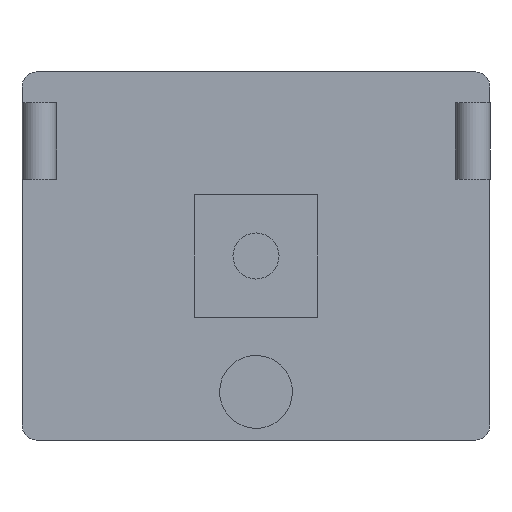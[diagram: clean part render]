
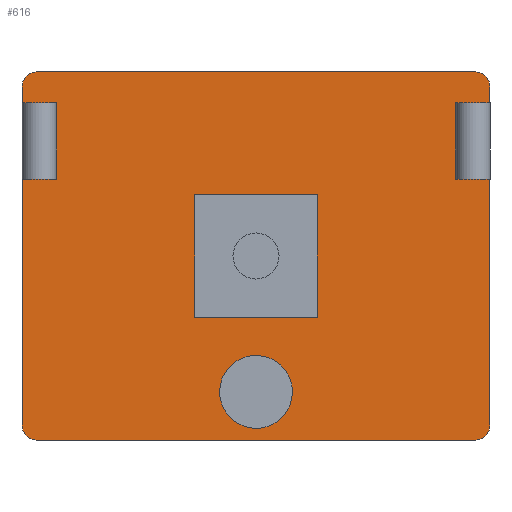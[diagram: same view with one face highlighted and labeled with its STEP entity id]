
A CAD part, front view. The second image highlights one B-rep face of the part: STEP entity #616.
In plain terms, the highlighted planar face has unit normal (0, -1, 0) as drawn and (0, 0, -1) by its records, which use the part's own axes.
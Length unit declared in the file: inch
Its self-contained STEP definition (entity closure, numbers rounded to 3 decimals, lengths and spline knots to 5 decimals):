
#190=CARTESIAN_POINT('',(0.687,-0.688,0.0));
#191=VERTEX_POINT('',#190);
#192=CARTESIAN_POINT('',(0.6875,-0.688,0.0));
#193=DIRECTION('',(0.0,0.0,1.0));
#194=DIRECTION('',(1.0,0.0,0.0));
#195=AXIS2_PLACEMENT_3D('',#192,#193,#194);
#196=CIRCLE('',#195,0.0005);
#197=EDGE_CURVE('',#191,#191,#196,.T.);
#239=CARTESIAN_POINT('',(-0.688,0.687,0.0));
#240=VERTEX_POINT('',#239);
#241=CARTESIAN_POINT('',(-0.6875,0.687,0.0));
#242=DIRECTION('',(0.0,0.0,1.0));
#243=DIRECTION('',(1.0,0.0,0.0));
#244=AXIS2_PLACEMENT_3D('',#241,#242,#243);
#245=CIRCLE('',#244,0.0005);
#246=EDGE_CURVE('',#240,#240,#245,.T.);
#299=CARTESIAN_POINT('',(0.0005,2.214,0.0));
#300=VERTEX_POINT('',#299);
#301=CARTESIAN_POINT('',(0.,2.214,0.0));
#302=DIRECTION('',(0.0,0.0,1.0));
#303=DIRECTION('',(1.0,0.0,0.0));
#304=AXIS2_PLACEMENT_3D('',#301,#302,#303);
#305=CIRCLE('',#304,0.0005);
#306=EDGE_CURVE('',#300,#300,#305,.T.);
#327=CARTESIAN_POINT('',(-3.8125,-2.75,0.0));
#328=VERTEX_POINT('',#327);
#335=CARTESIAN_POINT('',(-3.5625,-3.,0.0));
#336=VERTEX_POINT('',#335);
#337=CARTESIAN_POINT('',(-3.5625,-2.75,0.0));
#338=DIRECTION('',(0.0,0.0,1.0));
#339=DIRECTION('',(-0.707,-0.707,0.0));
#340=AXIS2_PLACEMENT_3D('',#337,#338,#339);
#341=CIRCLE('',#340,0.25);
#342=EDGE_CURVE('',#328,#336,#341,.T.);
#434=CARTESIAN_POINT('',(3.5625,-3.0,0.0));
#435=VERTEX_POINT('',#434);
#436=CARTESIAN_POINT('',(3.5625,-3.0,0.0));
#437=DIRECTION('',(-1.0,0.0,0.0));
#438=VECTOR('',#437,7.125);
#439=LINE('',#436,#438);
#440=EDGE_CURVE('',#435,#336,#439,.T.);
#459=CARTESIAN_POINT('',(3.8125,-2.75,0.0));
#460=VERTEX_POINT('',#459);
#461=CARTESIAN_POINT('',(3.5625,-2.75,0.0));
#462=DIRECTION('',(0.0,0.0,1.0));
#463=DIRECTION('',(0.707,-0.707,0.0));
#464=AXIS2_PLACEMENT_3D('',#461,#462,#463);
#465=CIRCLE('',#464,0.25);
#466=EDGE_CURVE('',#435,#460,#465,.T.);
#483=CARTESIAN_POINT('',(-3.5625,3.,0.0));
#484=VERTEX_POINT('',#483);
#491=CARTESIAN_POINT('',(-3.8125,2.75,0.0));
#492=VERTEX_POINT('',#491);
#493=CARTESIAN_POINT('',(-3.5625,2.75,0.0));
#494=DIRECTION('',(0.0,0.0,1.0));
#495=DIRECTION('',(-0.707,0.707,0.0));
#496=AXIS2_PLACEMENT_3D('',#493,#494,#495);
#497=CIRCLE('',#496,0.25);
#498=EDGE_CURVE('',#484,#492,#497,.T.);
#516=CARTESIAN_POINT('',(3.5625,3.,0.0));
#517=VERTEX_POINT('',#516);
#524=CARTESIAN_POINT('',(-3.5625,3.,0.0));
#525=DIRECTION('',(1.0,0.0,0.0));
#526=VECTOR('',#525,7.125);
#527=LINE('',#524,#526);
#528=EDGE_CURVE('',#484,#517,#527,.T.);
#539=CARTESIAN_POINT('',(3.8125,2.75,0.0));
#540=VERTEX_POINT('',#539);
#547=CARTESIAN_POINT('',(3.5625,2.75,0.0));
#548=DIRECTION('',(0.0,0.0,1.0));
#549=DIRECTION('',(0.707,0.707,0.0));
#550=AXIS2_PLACEMENT_3D('',#547,#548,#549);
#551=CIRCLE('',#550,0.25);
#552=EDGE_CURVE('',#540,#517,#551,.T.);
#564=CARTESIAN_POINT('',(3.8125,2.75,0.0));
#565=DIRECTION('',(0.0,-1.0,0.0));
#566=VECTOR('',#565,5.5);
#567=LINE('',#564,#566);
#568=EDGE_CURVE('',#540,#460,#567,.T.);
#583=CARTESIAN_POINT('',(-3.8125,-2.75,0.0));
#584=DIRECTION('',(0.0,1.0,0.0));
#585=VECTOR('',#584,5.5);
#586=LINE('',#583,#585);
#587=EDGE_CURVE('',#328,#492,#586,.T.);
#592=CARTESIAN_POINT('',(0.,0.,0.0));
#593=DIRECTION('',(0.0,0.0,1.0));
#594=DIRECTION('',(1.0,0.0,0.0));
#595=AXIS2_PLACEMENT_3D('',#592,#593,#594);
#596=PLANE('',#595);
#597=ORIENTED_EDGE('',*,*,#342,.F.);
#598=ORIENTED_EDGE('',*,*,#587,.T.);
#599=ORIENTED_EDGE('',*,*,#498,.F.);
#600=ORIENTED_EDGE('',*,*,#528,.T.);
#601=ORIENTED_EDGE('',*,*,#552,.F.);
#602=ORIENTED_EDGE('',*,*,#568,.T.);
#603=ORIENTED_EDGE('',*,*,#466,.F.);
#604=ORIENTED_EDGE('',*,*,#440,.T.);
#605=EDGE_LOOP('',(#597,#598,#599,#600,#601,#602,#603,#604));
#606=FACE_OUTER_BOUND('',#605,.T.);
#607=ORIENTED_EDGE('',*,*,#197,.T.);
#608=EDGE_LOOP('',(#607));
#609=FACE_BOUND('',#608,.T.);
#610=ORIENTED_EDGE('',*,*,#246,.T.);
#611=EDGE_LOOP('',(#610));
#612=FACE_BOUND('',#611,.T.);
#613=ORIENTED_EDGE('',*,*,#306,.T.);
#614=EDGE_LOOP('',(#613));
#615=FACE_BOUND('',#614,.T.);
#616=ADVANCED_FACE('',(#606,#609,#612,#615),#596,.F.);
